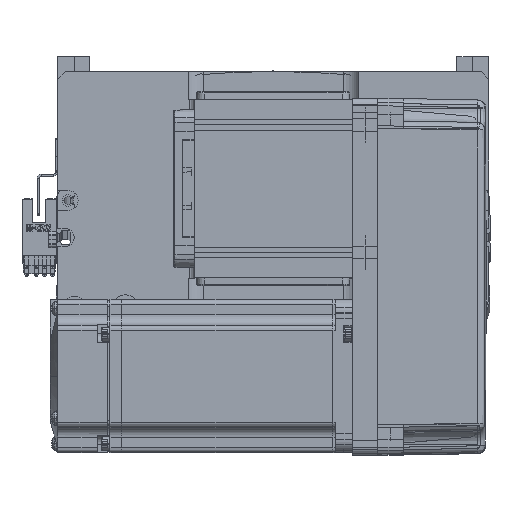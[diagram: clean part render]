
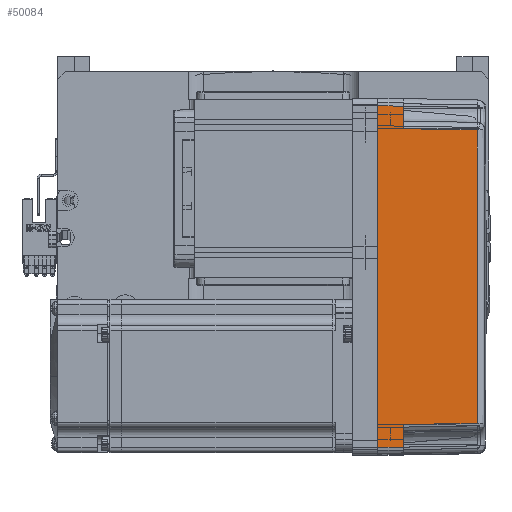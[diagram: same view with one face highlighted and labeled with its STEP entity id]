
A CAD part, top view. The second image highlights one B-rep face of the part: STEP entity #50084.
In plain terms, the highlighted planar face has unit normal (0.018, 0, 1) as drawn and (0, 1, 0.017) by its records, which use the part's own axes.
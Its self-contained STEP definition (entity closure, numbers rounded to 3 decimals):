
#317 = DIRECTION ( 'NONE',  ( -0.017, -0.017, 1. ) ) ;
#2165 = PLANE ( 'NONE',  #46048 ) ;
#2373 = VERTEX_POINT ( 'NONE', #35793 ) ;
#2738 = ORIENTED_EDGE ( 'NONE', *, *, #15918, .T. ) ;
#2779 = EDGE_CURVE ( 'NONE', #61450, #9533, #59217, .T. ) ;
#3081 = VECTOR ( 'NONE', #44971, 1000. ) ;
#5410 = DIRECTION ( 'NONE',  ( 0.017, 0.017, -1. ) ) ;
#8481 = VERTEX_POINT ( 'NONE', #40602 ) ;
#8916 = FACE_OUTER_BOUND ( 'NONE', #49085, .T. ) ;
#9372 = VECTOR ( 'NONE', #49387, 1000. ) ;
#9533 = VERTEX_POINT ( 'NONE', #18375 ) ;
#9936 = CARTESIAN_POINT ( 'NONE',  ( 57.495, 35.32, 38.985 ) ) ;
#10244 = DIRECTION ( 'NONE',  ( 1., 0., 0. ) ) ;
#12659 = EDGE_CURVE ( 'NONE', #27266, #32537, #45887, .T. ) ;
#12856 = EDGE_CURVE ( 'NONE', #2373, #9533, #61239, .T. ) ;
#13637 = LINE ( 'NONE', #44711, #49936 ) ;
#14354 = CARTESIAN_POINT ( 'NONE',  ( -67., 36., 0. ) ) ;
#15599 = CARTESIAN_POINT ( 'NONE',  ( -19.165, 35.316, 39.181 ) ) ;
#15918 = EDGE_CURVE ( 'NONE', #8481, #20530, #26950, .T. ) ;
#16490 = ORIENTED_EDGE ( 'NONE', *, *, #12659, .T. ) ;
#18375 = CARTESIAN_POINT ( 'NONE',  ( 66.826, 35.825, 10. ) ) ;
#18873 = EDGE_CURVE ( 'NONE', #27266, #61450, #23071, .T. ) ;
#20530 = VERTEX_POINT ( 'NONE', #28577 ) ;
#22062 = DIRECTION ( 'NONE',  ( 0., 1., 0.017 ) ) ;
#23071 = LINE ( 'NONE', #39906, #9372 ) ;
#23689 = VECTOR ( 'NONE', #64244, 1000. ) ;
#26950 = LINE ( 'NONE', #53814, #23689 ) ;
#27173 = CARTESIAN_POINT ( 'NONE',  ( 70., 35.825, 10. ) ) ;
#27266 = VERTEX_POINT ( 'NONE', #56334 ) ;
#27955 = ORIENTED_EDGE ( 'NONE', *, *, #56016, .T. ) ;
#28577 = CARTESIAN_POINT ( 'NONE',  ( -57.495, 35.32, 38.985 ) ) ;
#31733 = VECTOR ( 'NONE', #317, 1000. ) ;
#32537 = VERTEX_POINT ( 'NONE', #51800 ) ;
#32682 = CARTESIAN_POINT ( 'NONE',  ( 70., 36., 0. ) ) ;
#32964 = EDGE_CURVE ( 'NONE', #32537, #8481, #13637, .T. ) ;
#33277 = LINE ( 'NONE', #9936, #64783 ) ;
#35777 = ORIENTED_EDGE ( 'NONE', *, *, #2779, .F. ) ;
#35793 = CARTESIAN_POINT ( 'NONE',  ( 58., 35.825, 10. ) ) ;
#36086 = CARTESIAN_POINT ( 'NONE',  ( 19.165, 35.316, 39.181 ) ) ;
#37822 = VECTOR ( 'NONE', #53100, 1000. ) ;
#39906 = CARTESIAN_POINT ( 'NONE',  ( 0., 36., 0. ) ) ;
#40602 = CARTESIAN_POINT ( 'NONE',  ( -58., 35.825, 10. ) ) ;
#40607 = ORIENTED_EDGE ( 'NONE', *, *, #32964, .T. ) ;
#40639 = B_SPLINE_CURVE_WITH_KNOTS ( 'NONE', 3,
 ( #46244, #15599, #36086, #56196 ),
 .UNSPECIFIED., .F., .F.,
 ( 4, 4 ),
 ( 0., 1. ),
 .UNSPECIFIED. ) ;
#44487 = ORIENTED_EDGE ( 'NONE', *, *, #12856, .T. ) ;
#44711 = CARTESIAN_POINT ( 'NONE',  ( 70., 35.825, 10. ) ) ;
#44971 = DIRECTION ( 'NONE',  ( 0.017, -0.017, 1. ) ) ;
#45887 = LINE ( 'NONE', #14354, #3081 ) ;
#46006 = VERTEX_POINT ( 'NONE', #63213 ) ;
#46048 = AXIS2_PLACEMENT_3D ( 'NONE', #32682, #22062, #53673 ) ;
#46244 = CARTESIAN_POINT ( 'NONE',  ( -57.495, 35.32, 38.985 ) ) ;
#47320 = ORIENTED_EDGE ( 'NONE', *, *, #18873, .F. ) ;
#49085 = EDGE_LOOP ( 'NONE', ( #16490, #40607, #2738, #49798, #27955, #44487, #35777, #47320 ) ) ;
#49387 = DIRECTION ( 'NONE',  ( 1., 0., 0. ) ) ;
#49798 = ORIENTED_EDGE ( 'NONE', *, *, #60040, .T. ) ;
#49936 = VECTOR ( 'NONE', #10244, 1000. ) ;
#50084 = ADVANCED_FACE ( 'NONE', ( #8916 ), #2165, .T. ) ;
#51800 = CARTESIAN_POINT ( 'NONE',  ( -66.826, 35.825, 10. ) ) ;
#51965 = CARTESIAN_POINT ( 'NONE',  ( 67., 36., 0. ) ) ;
#53100 = DIRECTION ( 'NONE',  ( 1., 0., 0. ) ) ;
#53673 = DIRECTION ( 'NONE',  ( 0., -0.017, 1. ) ) ;
#53814 = CARTESIAN_POINT ( 'NONE',  ( -58., 35.825, 10. ) ) ;
#56016 = EDGE_CURVE ( 'NONE', #46006, #2373, #33277, .T. ) ;
#56196 = CARTESIAN_POINT ( 'NONE',  ( 57.495, 35.32, 38.985 ) ) ;
#56334 = CARTESIAN_POINT ( 'NONE',  ( -67., 36., 0. ) ) ;
#59217 = LINE ( 'NONE', #62416, #31733 ) ;
#60040 = EDGE_CURVE ( 'NONE', #20530, #46006, #40639, .T. ) ;
#61239 = LINE ( 'NONE', #27173, #37822 ) ;
#61450 = VERTEX_POINT ( 'NONE', #51965 ) ;
#62416 = CARTESIAN_POINT ( 'NONE',  ( 67.001, 36.001, -0.052 ) ) ;
#63213 = CARTESIAN_POINT ( 'NONE',  ( 57.495, 35.32, 38.985 ) ) ;
#64244 = DIRECTION ( 'NONE',  ( 0.017, -0.017, 1. ) ) ;
#64783 = VECTOR ( 'NONE', #5410, 1000. ) ;
